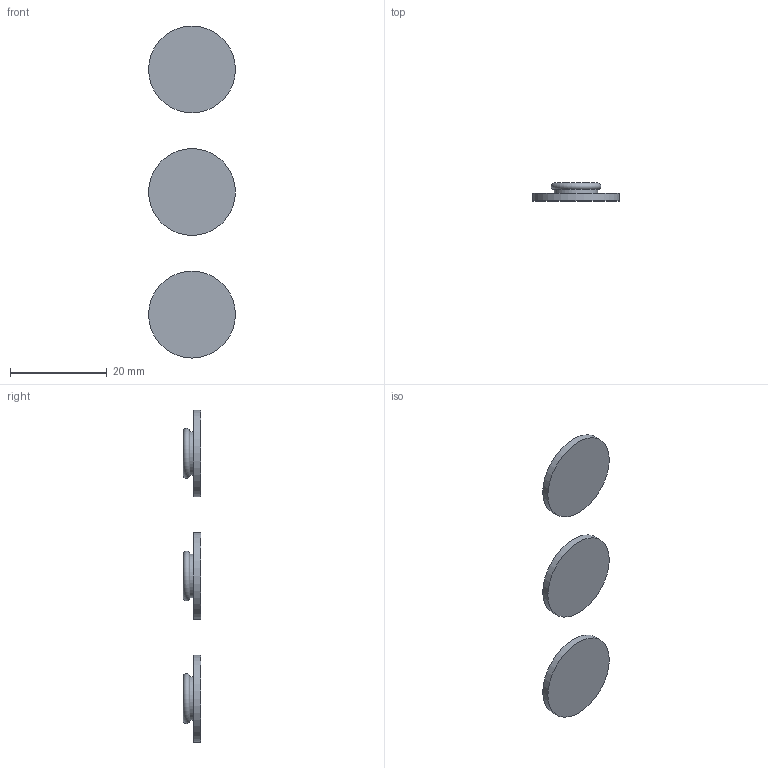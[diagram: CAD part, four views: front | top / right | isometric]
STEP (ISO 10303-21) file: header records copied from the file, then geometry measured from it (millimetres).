
FILE_DESCRIPTION(/* description */ (''),/* implementation_level */ '2;1');
FILE_NAME(/* name */ '/Users/laragrant/Documents/3d prints/snapFabric/wovens/maleSnap3C.step',/* time_stamp */ '2016-07-12T18:15:15-04:00',/* author */ (''),/* organization */ (''),/* preprocessor_version */ 'ST-DEVELOPER v16.5',/* originating_system */ 'Autodesk Translation Framework v5.1.0.3141',/* authorisation */ '');
FILE_SCHEMA (('AUTOMOTIVE_DESIGN { 1 0 10303 214 3 1 1 }'));
Length unit declared in the file: centimetre
Products named in the file (1): 3 maleSnap with Coaster v2
Bounding box: 18 x 3.65 x 68.8 mm (x, y, z)
Volume: 1620 mm3; surface area: 2046.2 mm2
Topology: 3 solids, 3 shells, 18 faces, 30 edges, 21 vertices
Faces by surface type: plane 9, cylinder 6, torus 3
Full cylindrical faces by diameter (mm): 9 x3, 18 x3
Entity records: 356 total; most frequent: DIRECTION 68, CARTESIAN_POINT 49, AXIS2_PLACEMENT_3D 34, EDGE_LOOP 30, ORIENTED_EDGE 30, FACE_OUTER_BOUND 18, ADVANCED_FACE 18, CIRCLE 15
